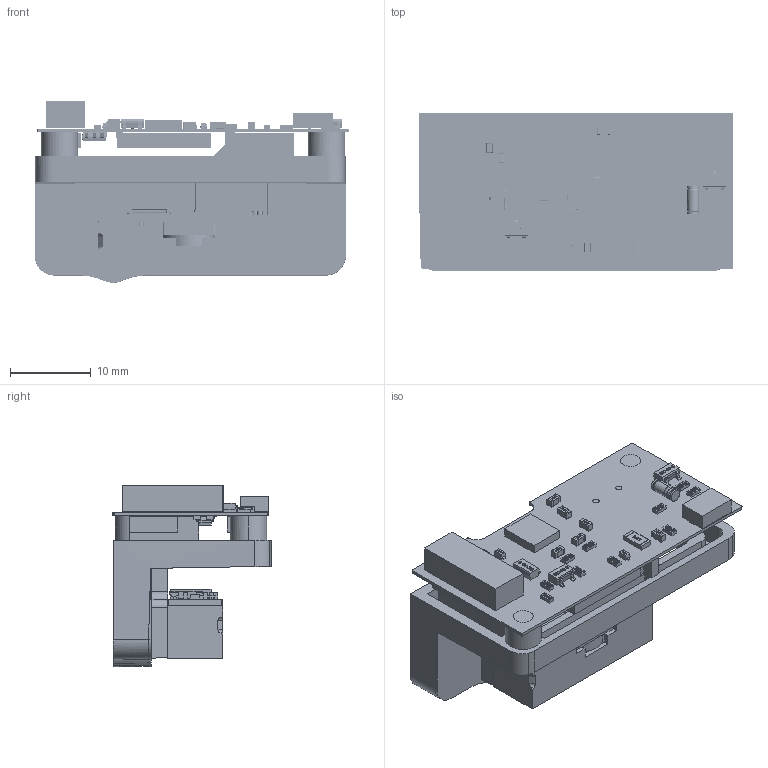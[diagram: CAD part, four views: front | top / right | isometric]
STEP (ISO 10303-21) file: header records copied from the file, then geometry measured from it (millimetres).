
FILE_DESCRIPTION((''),'2;1');
FILE_NAME('RT214C_ASM','2021-06-10T',('bao'),(''),'PRO/ENGINEER BY PARAMETRIC TECHNOLOGY CORPORATION, 2010280','PRO/ENGINEER BY PARAMETRIC TECHNOLOGY CORPORATION, 2010280','');
FILE_SCHEMA(('CONFIG_CONTROL_DESIGN'));
Products named in the file (113): MANIFOLD_SOLID_BREP_101_1_1_1; MANIFOLD_SOLID_BREP_102_1_1_1; MANIFOLD_SOLID_BREP_103_1_1_1; BREP_WITH_VOIDS_136_1_1_1; RT214_ASM; CM51-L-ZHIJIA-NEW_1_1_1_1; NUT_1_1_1_1; 170206-EM2037-ZHIJIA_ASM_1_ASM__ASM; ZHIJIA_ASM_1_ASM_1_ASM_1_ASM; BOARD_2; EXTRUDED-5054_1; 408874512_ASM_1_ASM; U3_ASM_1_ASM; SOD523_1; TVS3_ASM_1_ASM; TVS2_ASM_1_ASM; MANIFOLD_SOLID_BREP_16200_1; MANIFOLD_SOLID_BREP_36756_1; R0603_ASM_1_ASM; R12_ASM_1_ASM; R11_ASM_1_ASM; R10_ASM_1_ASM; R9_ASM_1_ASM; R8_ASM_1_ASM; R7_ASM_1_ASM; R6_ASM_1_ASM; R5_ASM_1_ASM; MANIFOLD_SOLID_BREP_46851_1; MANIFOLD_SOLID_BREP_47802_1; MANIFOLD_SOLID_BREP_48772_1; MANIFOLD_SOLID_BREP_49742_1; SOT-23-3_ASM_1_ASM; Q3_ASM_1_ASM; EXTRUDED-66870_1; 726327264_ASM_1_ASM; J3_ASM_1_ASM; F2__ASM_1_ASM; SOD-80_1; D2_ASM_1_ASM; MANIFOLD_SOLID_BREP_68910_1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
Assembly tree (142 placements, depth 7):
  RT214C_ASM
    RT214_ASM
      MANIFOLD_SOLID_BREP_101_1_1_1
      MANIFOLD_SOLID_BREP_102_1_1_1
      MANIFOLD_SOLID_BREP_103_1_1_1
      BREP_WITH_VOIDS_136_1_1_1
    ZHIJIA_ASM_1_ASM_1_ASM_1_ASM
      170206-EM2037-ZHIJIA_ASM_1_ASM__ASM
        CM51-L-ZHIJIA-NEW_1_1_1_1
        NUT_1_1_1_1  x2
    B01_V01_3D__ASM_2_ASM
      PCB_ASM_1_ASM
        BOARD_2
        U3_ASM_1_ASM
          408874512_ASM_1_ASM
            EXTRUDED-5054_1
        TVS3_ASM_1_ASM
          SOD523_1
        TVS2_ASM_1_ASM
          SOD523_1
        R12_ASM_1_ASM
          R0603_ASM_1_ASM
            MANIFOLD_SOLID_BREP_16200_1
            MANIFOLD_SOLID_BREP_36756_1
        R11_ASM_1_ASM
          R0603_ASM_1_ASM
            MANIFOLD_SOLID_BREP_16200_1
            MANIFOLD_SOLID_BREP_36756_1
        R10_ASM_1_ASM
          R0603_ASM_1_ASM
            MANIFOLD_SOLID_BREP_16200_1
            MANIFOLD_SOLID_BREP_36756_1
        R9_ASM_1_ASM
          R0603_ASM_1_ASM
            MANIFOLD_SOLID_BREP_16200_1
            MANIFOLD_SOLID_BREP_36756_1
        R8_ASM_1_ASM
          R0603_ASM_1_ASM
            MANIFOLD_SOLID_BREP_16200_1
            MANIFOLD_SOLID_BREP_36756_1
        R7_ASM_1_ASM
          R0603_ASM_1_ASM
            MANIFOLD_SOLID_BREP_16200_1
            MANIFOLD_SOLID_BREP_36756_1
        R6_ASM_1_ASM
          R0603_ASM_1_ASM
            MANIFOLD_SOLID_BREP_16200_1
            MANIFOLD_SOLID_BREP_36756_1
        R5_ASM_1_ASM
          R0603_ASM_1_ASM
            MANIFOLD_SOLID_BREP_16200_1
            MANIFOLD_SOLID_BREP_36756_1
        Q3_ASM_1_ASM
          SOT-23-3_ASM_1_ASM
            MANIFOLD_SOLID_BREP_46851_1
            MANIFOLD_SOLID_BREP_47802_1
            MANIFOLD_SOLID_BREP_48772_1
            MANIFOLD_SOLID_BREP_49742_1
        J3_ASM_1_ASM
          726327264_ASM_1_ASM
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Bounding box: 38.89 x 19.57 x 22.44 mm (x, y, z)
Volume: 1291.4 mm3; surface area: 9794 mm2
Topology: 198 solids, 214 shells, 9260 faces, 24234 edges, 15808 vertices
Faces by surface type: plane 5447, extrusion 2686, cylinder 842, sphere 106, cone 63, bspline 58, torus 58
Entity records: 122222 total; most frequent: CARTESIAN_POINT 49012, ORIENTED_EDGE 15350, DIRECTION 13365, EDGE_CURVE 7705, VECTOR 5659, LINE 5185, VERTEX_POINT 5012, AXIS2_PLACEMENT_3D 3853
